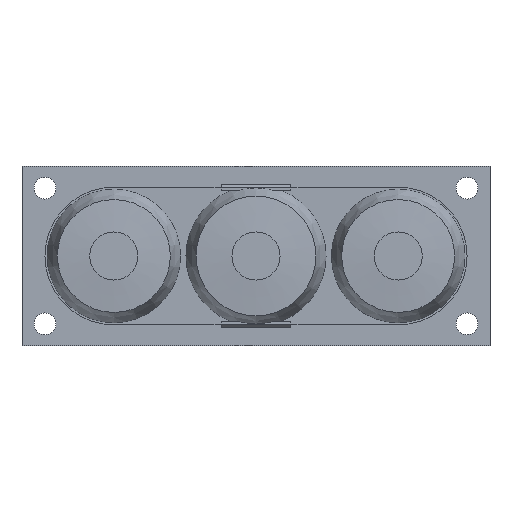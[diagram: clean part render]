
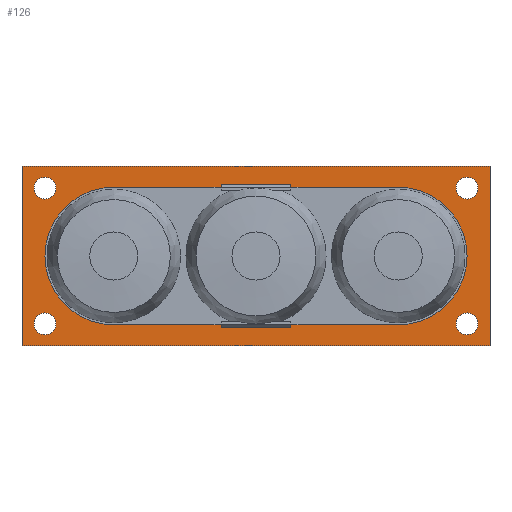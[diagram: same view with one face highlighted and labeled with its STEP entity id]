
A CAD part, front view. The second image highlights one B-rep face of the part: STEP entity #126.
In plain terms, the highlighted planar face has unit normal (0, -1, 0).
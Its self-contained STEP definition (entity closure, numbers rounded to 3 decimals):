
#126 = ADVANCED_FACE( '', ( #329, #330, #331, #332, #333, #334 ), #335, .F. );
#329 = FACE_BOUND( '', #654, .T. );
#330 = FACE_BOUND( '', #655, .T. );
#331 = FACE_BOUND( '', #656, .T. );
#332 = FACE_BOUND( '', #657, .T. );
#333 = FACE_BOUND( '', #658, .T. );
#334 = FACE_OUTER_BOUND( '', #659, .T. );
#335 = PLANE( '', #660 );
#654 = EDGE_LOOP( '', ( #1016, #1017, #1018, #1019 ) );
#655 = EDGE_LOOP( '', ( #1020 ) );
#656 = EDGE_LOOP( '', ( #1021 ) );
#657 = EDGE_LOOP( '', ( #1022 ) );
#658 = EDGE_LOOP( '', ( #1023 ) );
#659 = EDGE_LOOP( '', ( #1024, #1025, #1026, #1027 ) );
#660 = AXIS2_PLACEMENT_3D( '', #1028, #1029, #1030 );
#1016 = ORIENTED_EDGE( '', *, *, #1683, .F. );
#1017 = ORIENTED_EDGE( '', *, *, #1684, .F. );
#1018 = ORIENTED_EDGE( '', *, *, #1685, .F. );
#1019 = ORIENTED_EDGE( '', *, *, #1686, .F. );
#1020 = ORIENTED_EDGE( '', *, *, #1687, .T. );
#1021 = ORIENTED_EDGE( '', *, *, #1688, .T. );
#1022 = ORIENTED_EDGE( '', *, *, #1689, .T. );
#1023 = ORIENTED_EDGE( '', *, *, #1690, .T. );
#1024 = ORIENTED_EDGE( '', *, *, #1678, .F. );
#1025 = ORIENTED_EDGE( '', *, *, #1691, .F. );
#1026 = ORIENTED_EDGE( '', *, *, #1692, .F. );
#1027 = ORIENTED_EDGE( '', *, *, #1669, .F. );
#1028 = CARTESIAN_POINT( '', ( 0., 0., 0. ) );
#1029 = DIRECTION( '', ( 0., 1., 0. ) );
#1030 = DIRECTION( '', ( 0., 0., 1. ) );
#1669 = EDGE_CURVE( '', #1948, #1950, #1951, .T. );
#1678 = EDGE_CURVE( '', #1965, #1948, #1967, .T. );
#1683 = EDGE_CURVE( '', #1974, #1975, #1976, .T. );
#1684 = EDGE_CURVE( '', #1977, #1974, #1978, .F. );
#1685 = EDGE_CURVE( '', #1979, #1977, #1980, .T. );
#1686 = EDGE_CURVE( '', #1975, #1979, #1981, .F. );
#1687 = EDGE_CURVE( '', #1982, #1982, #1983, .T. );
#1688 = EDGE_CURVE( '', #1984, #1984, #1985, .T. );
#1689 = EDGE_CURVE( '', #1986, #1986, #1987, .T. );
#1690 = EDGE_CURVE( '', #1988, #1988, #1989, .T. );
#1691 = EDGE_CURVE( '', #1990, #1965, #1991, .T. );
#1692 = EDGE_CURVE( '', #1950, #1990, #1992, .T. );
#1948 = VERTEX_POINT( '', #2350 );
#1950 = VERTEX_POINT( '', #2353 );
#1951 = LINE( '', #2354, #2355 );
#1965 = VERTEX_POINT( '', #2375 );
#1967 = LINE( '', #2378, #2379 );
#1974 = VERTEX_POINT( '', #2389 );
#1975 = VERTEX_POINT( '', #2390 );
#1976 = LINE( '', #2391, #2392 );
#1977 = VERTEX_POINT( '', #2393 );
#1978 = CIRCLE( '', #2394, 31.5 );
#1979 = VERTEX_POINT( '', #2395 );
#1980 = LINE( '', #2396, #2397 );
#1981 = CIRCLE( '', #2398, 31.5 );
#1982 = VERTEX_POINT( '', #2399 );
#1983 = CIRCLE( '', #2400, 5. );
#1984 = VERTEX_POINT( '', #2401 );
#1985 = CIRCLE( '', #2402, 5. );
#1986 = VERTEX_POINT( '', #2403 );
#1987 = CIRCLE( '', #2404, 5. );
#1988 = VERTEX_POINT( '', #2405 );
#1989 = CIRCLE( '', #2406, 5. );
#1990 = VERTEX_POINT( '', #2407 );
#1991 = LINE( '', #2408, #2409 );
#1992 = LINE( '', #2410, #2411 );
#2350 = CARTESIAN_POINT( '', ( -107., 0., -41. ) );
#2353 = CARTESIAN_POINT( '', ( -107., 0., 41. ) );
#2354 = CARTESIAN_POINT( '', ( -107., 0., -41. ) );
#2355 = VECTOR( '', #2819, 1000. );
#2375 = CARTESIAN_POINT( '', ( 107., 0., -41. ) );
#2378 = CARTESIAN_POINT( '', ( 107., 0., -41. ) );
#2379 = VECTOR( '', #2827, 1000. );
#2389 = CARTESIAN_POINT( '', ( -65., 0., -31.5 ) );
#2390 = CARTESIAN_POINT( '', ( 65., 0., -31.5 ) );
#2391 = CARTESIAN_POINT( '', ( 0., 0., -31.5 ) );
#2392 = VECTOR( '', #2831, 1000. );
#2393 = CARTESIAN_POINT( '', ( -65., 0., 31.5 ) );
#2394 = AXIS2_PLACEMENT_3D( '', #2832, #2833, #2834 );
#2395 = CARTESIAN_POINT( '', ( 65., 0., 31.5 ) );
#2396 = CARTESIAN_POINT( '', ( 0., 0., 31.5 ) );
#2397 = VECTOR( '', #2835, 1000. );
#2398 = AXIS2_PLACEMENT_3D( '', #2836, #2837, #2838 );
#2399 = CARTESIAN_POINT( '', ( -91.5, 0., -31. ) );
#2400 = AXIS2_PLACEMENT_3D( '', #2839, #2840, #2841 );
#2401 = CARTESIAN_POINT( '', ( -91.5, 0., 31. ) );
#2402 = AXIS2_PLACEMENT_3D( '', #2842, #2843, #2844 );
#2403 = CARTESIAN_POINT( '', ( 101.5, 0., -31. ) );
#2404 = AXIS2_PLACEMENT_3D( '', #2845, #2846, #2847 );
#2405 = CARTESIAN_POINT( '', ( 101.5, 0., 31. ) );
#2406 = AXIS2_PLACEMENT_3D( '', #2848, #2849, #2850 );
#2407 = CARTESIAN_POINT( '', ( 107., 0., 41. ) );
#2408 = CARTESIAN_POINT( '', ( 107., 0., 41. ) );
#2409 = VECTOR( '', #2851, 1000. );
#2410 = CARTESIAN_POINT( '', ( -107., 0., 41. ) );
#2411 = VECTOR( '', #2852, 1000. );
#2819 = DIRECTION( '', ( 0., 0., 1. ) );
#2827 = DIRECTION( '', ( -1., 0., 0. ) );
#2831 = DIRECTION( '', ( 1., 0., 0. ) );
#2832 = CARTESIAN_POINT( '', ( -65., 0., 0. ) );
#2833 = DIRECTION( '', ( 0., 1., 0. ) );
#2834 = DIRECTION( '', ( 0., 0., 1. ) );
#2835 = DIRECTION( '', ( -1., 0., 0. ) );
#2836 = CARTESIAN_POINT( '', ( 65., 0., 0. ) );
#2837 = DIRECTION( '', ( 0., 1., 0. ) );
#2838 = DIRECTION( '', ( 0., 0., 1. ) );
#2839 = CARTESIAN_POINT( '', ( -96.5, 0., -31. ) );
#2840 = DIRECTION( '', ( 0., 1., 0. ) );
#2841 = DIRECTION( '', ( 1., 0., 0. ) );
#2842 = CARTESIAN_POINT( '', ( -96.5, 0., 31. ) );
#2843 = DIRECTION( '', ( 0., 1., 0. ) );
#2844 = DIRECTION( '', ( 1., 0., 0. ) );
#2845 = CARTESIAN_POINT( '', ( 96.5, 0., -31. ) );
#2846 = DIRECTION( '', ( 0., 1., 0. ) );
#2847 = DIRECTION( '', ( 1., 0., 0. ) );
#2848 = CARTESIAN_POINT( '', ( 96.5, 0., 31. ) );
#2849 = DIRECTION( '', ( 0., 1., 0. ) );
#2850 = DIRECTION( '', ( 1., 0., 0. ) );
#2851 = DIRECTION( '', ( 0., 0., -1. ) );
#2852 = DIRECTION( '', ( 1., 0., 0. ) );
